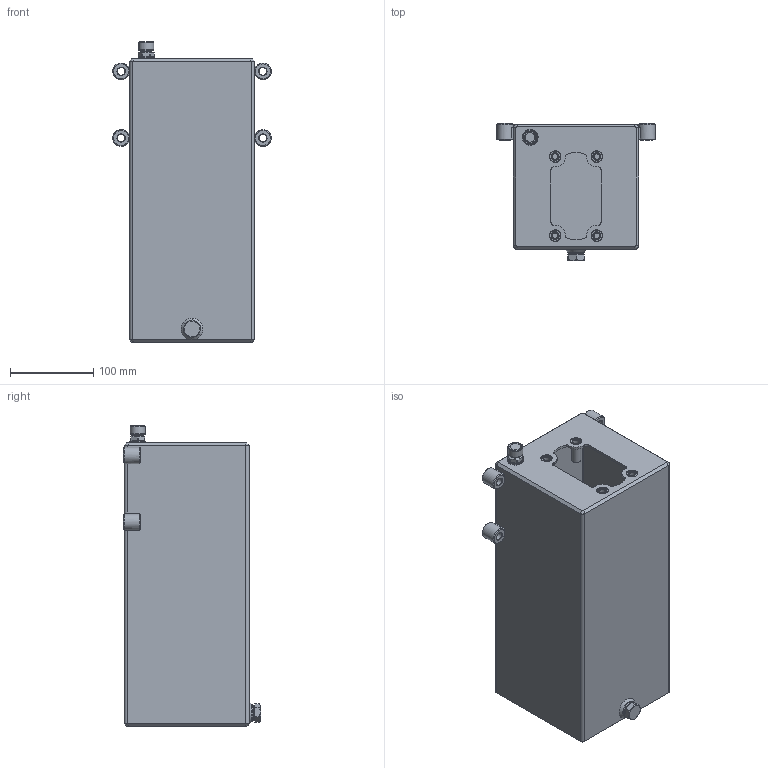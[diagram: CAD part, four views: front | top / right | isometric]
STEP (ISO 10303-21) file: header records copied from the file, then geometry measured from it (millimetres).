
FILE_DESCRIPTION(/* description */ ('Unknown'),/* implementation_level */ '2;1');
FILE_NAME(/* name */ 'SR07FE150',/* time_stamp */ '2024-11-28T10:28:59+01:00',/* author */ ('Unknown'),/* organization */ ('Unknown'),/* preprocessor_version */ 'ST-DEVELOPER v19.4',/* originating_system */ 'Solid Edge',/* authorisation */ 'Unknown');
FILE_SCHEMA (('AUTOMOTIVE_DESIGN {1 0 10303 214 3 1 1}'));
Length unit declared in the file: millimetre
Products named in the file (1): SR07FE150
Bounding box: 190 x 164.5 x 360.6 mm (x, y, z)
Volume: 732125.2 mm3; surface area: 486765 mm2
Topology: 2 solids, 2 shells, 263 faces, 616 edges, 383 vertices
Faces by surface type: plane 125, cylinder 73, cone 46, torus 19
Full cylindrical faces by diameter (mm): 5.8 x1, 6.647 x8, 9 x4, 9.15 x4, 10.5 x1, 10.88 x4, 10.9 x4, 13.157 x1, 13.2 x4, 13.5 x1, 15 x1, 16.8 x1, 17 x1, 18 x1, 19 x2, 20 x6, 20.1 x1
Entity records: 8471 total; most frequent: DIRECTION 1225, CARTESIAN_POINT 1144, ORIENTED_EDGE 944, AXIS2_PLACEMENT_3D 503, EDGE_CURVE 472, EDGE_LOOP 402, FACE_BOUND 402, VERTEX_POINT 340
